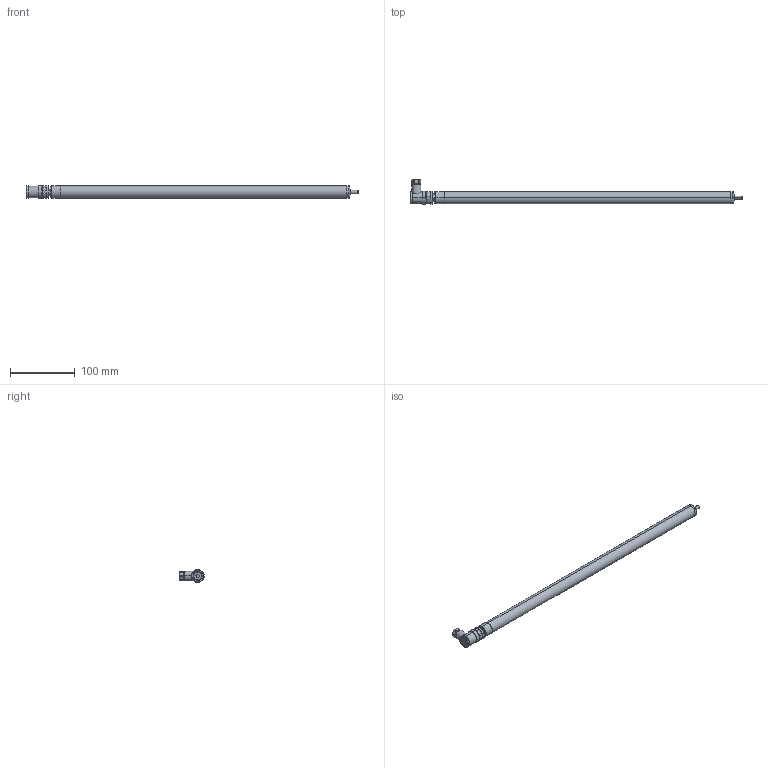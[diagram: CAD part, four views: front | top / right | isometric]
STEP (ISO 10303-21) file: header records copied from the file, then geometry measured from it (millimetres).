
FILE_DESCRIPTION (( 'STEP AP214' ), '1' );
FILE_NAME ('P117-350AJ.STEP', '2025-04-10T10:29:38', ( '' ), ( '' ), 'SwSTEP 2.0', 'SolidWorks 2023', '' );
FILE_SCHEMA (( 'AUTOMOTIVE_DESIGN' ));
Length unit declared in the file: millimetre
Products named in the file (1): P117-350AJ
Bounding box: 512.41 x 37.5 x 20 mm (x, y, z)
Surface area: 44154.6 mm2 (no closed solid volume)
Topology: 0 solids, 9 shells, 160 faces, 395 edges, 255 vertices
Faces by surface type: plane 65, cylinder 51, cone 27, bspline 13, torus 4
Entity records: 5253 total; most frequent: CARTESIAN_POINT 1502, DIRECTION 810, ORIENTED_EDGE 726, EDGE_CURVE 395, AXIS2_PLACEMENT_3D 325, VERTEX_POINT 255, EDGE_LOOP 181, CIRCLE 177
